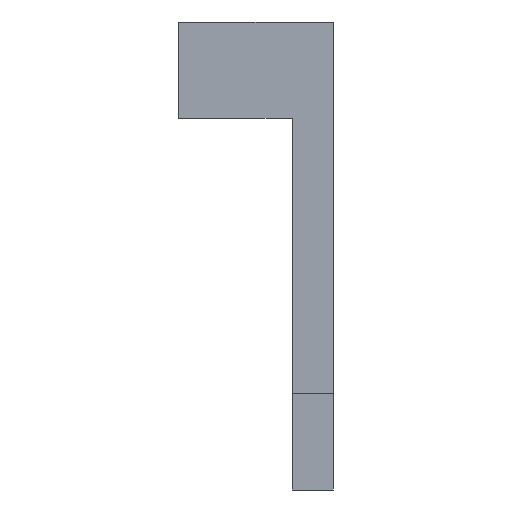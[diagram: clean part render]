
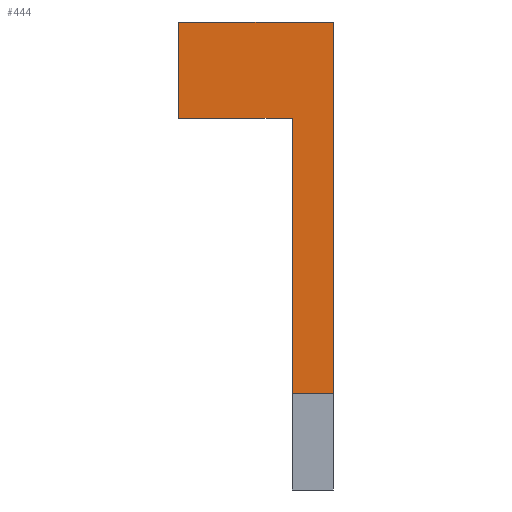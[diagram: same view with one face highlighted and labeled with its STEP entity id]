
A CAD part, front view. The second image highlights one B-rep face of the part: STEP entity #444.
In plain terms, the highlighted planar face has unit normal (0, -1, 0).
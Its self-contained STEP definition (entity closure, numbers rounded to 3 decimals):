
#24 = VERTEX_POINT('',#25);
#25 = CARTESIAN_POINT('',(56.5,-7.,-117.));
#32 = PLANE('',#33);
#33 = AXIS2_PLACEMENT_3D('',#34,#35,#36);
#34 = CARTESIAN_POINT('',(56.5,-27.,-131.));
#35 = DIRECTION('',(1.,0.,0.));
#36 = DIRECTION('',(0.,0.,1.));
#44 = PLANE('',#45);
#45 = AXIS2_PLACEMENT_3D('',#46,#47,#48);
#46 = CARTESIAN_POINT('',(56.5,-27.,-117.));
#47 = DIRECTION('',(0.,0.,1.));
#48 = DIRECTION('',(1.,0.,0.));
#197 = VERTEX_POINT('',#198);
#198 = CARTESIAN_POINT('',(56.5,-7.,-77.));
#212 = PLANE('',#213);
#213 = AXIS2_PLACEMENT_3D('',#214,#215,#216);
#214 = CARTESIAN_POINT('',(40.,-7.,-77.));
#215 = DIRECTION('',(0.,0.,1.));
#216 = DIRECTION('',(1.,0.,0.));
#224 = EDGE_CURVE('',#24,#197,#225,.T.);
#225 = SURFACE_CURVE('',#226,(#230,#237),.PCURVE_S1.);
#226 = LINE('',#227,#228);
#227 = CARTESIAN_POINT('',(56.5,-7.,-117.));
#228 = VECTOR('',#229,1.);
#229 = DIRECTION('',(0.,0.,1.));
#230 = PCURVE('',#32,#231);
#231 = DEFINITIONAL_REPRESENTATION('',(#232),#236);
#232 = LINE('',#233,#234);
#233 = CARTESIAN_POINT('',(14.,-20.));
#234 = VECTOR('',#235,1.);
#235 = DIRECTION('',(1.,0.));
#236 = ( GEOMETRIC_REPRESENTATION_CONTEXT(2) 
PARAMETRIC_REPRESENTATION_CONTEXT() REPRESENTATION_CONTEXT('2D SPACE',''
  ) );
#237 = PCURVE('',#238,#243);
#238 = PLANE('',#239);
#239 = AXIS2_PLACEMENT_3D('',#240,#241,#242);
#240 = CARTESIAN_POINT('',(56.5,-7.,-117.));
#241 = DIRECTION('',(0.,1.,0.));
#242 = DIRECTION('',(0.,0.,1.));
#243 = DEFINITIONAL_REPRESENTATION('',(#244),#248);
#244 = LINE('',#245,#246);
#245 = CARTESIAN_POINT('',(0.,0.));
#246 = VECTOR('',#247,1.);
#247 = DIRECTION('',(1.,0.));
#248 = ( GEOMETRIC_REPRESENTATION_CONTEXT(2) 
PARAMETRIC_REPRESENTATION_CONTEXT() REPRESENTATION_CONTEXT('2D SPACE',''
  ) );
#348 = VERTEX_POINT('',#349);
#349 = CARTESIAN_POINT('',(62.5,-7.,-117.));
#363 = PLANE('',#364);
#364 = AXIS2_PLACEMENT_3D('',#365,#366,#367);
#365 = CARTESIAN_POINT('',(62.5,-27.,-131.));
#366 = DIRECTION('',(1.,0.,0.));
#367 = DIRECTION('',(0.,0.,1.));
#375 = EDGE_CURVE('',#24,#348,#376,.T.);
#376 = SURFACE_CURVE('',#377,(#381,#388),.PCURVE_S1.);
#377 = LINE('',#378,#379);
#378 = CARTESIAN_POINT('',(56.5,-7.,-117.));
#379 = VECTOR('',#380,1.);
#380 = DIRECTION('',(1.,0.,0.));
#381 = PCURVE('',#44,#382);
#382 = DEFINITIONAL_REPRESENTATION('',(#383),#387);
#383 = LINE('',#384,#385);
#384 = CARTESIAN_POINT('',(0.,20.));
#385 = VECTOR('',#386,1.);
#386 = DIRECTION('',(1.,0.));
#387 = ( GEOMETRIC_REPRESENTATION_CONTEXT(2) 
PARAMETRIC_REPRESENTATION_CONTEXT() REPRESENTATION_CONTEXT('2D SPACE',''
  ) );
#388 = PCURVE('',#238,#389);
#389 = DEFINITIONAL_REPRESENTATION('',(#390),#394);
#390 = LINE('',#391,#392);
#391 = CARTESIAN_POINT('',(0.,0.));
#392 = VECTOR('',#393,1.);
#393 = DIRECTION('',(0.,1.));
#394 = ( GEOMETRIC_REPRESENTATION_CONTEXT(2) 
PARAMETRIC_REPRESENTATION_CONTEXT() REPRESENTATION_CONTEXT('2D SPACE',''
  ) );
#444 = ADVANCED_FACE('',(#445),#238,.F.);
#445 = FACE_BOUND('',#446,.F.);
#446 = EDGE_LOOP('',(#447,#448,#449,#472,#500,#528));
#447 = ORIENTED_EDGE('',*,*,#375,.F.);
#448 = ORIENTED_EDGE('',*,*,#224,.T.);
#449 = ORIENTED_EDGE('',*,*,#450,.F.);
#450 = EDGE_CURVE('',#451,#197,#453,.T.);
#451 = VERTEX_POINT('',#452);
#452 = CARTESIAN_POINT('',(40.,-7.,-77.));
#453 = SURFACE_CURVE('',#454,(#458,#465),.PCURVE_S1.);
#454 = LINE('',#455,#456);
#455 = CARTESIAN_POINT('',(40.,-7.,-77.));
#456 = VECTOR('',#457,1.);
#457 = DIRECTION('',(1.,0.,0.));
#458 = PCURVE('',#238,#459);
#459 = DEFINITIONAL_REPRESENTATION('',(#460),#464);
#460 = LINE('',#461,#462);
#461 = CARTESIAN_POINT('',(40.,-16.5));
#462 = VECTOR('',#463,1.);
#463 = DIRECTION('',(0.,1.));
#464 = ( GEOMETRIC_REPRESENTATION_CONTEXT(2) 
PARAMETRIC_REPRESENTATION_CONTEXT() REPRESENTATION_CONTEXT('2D SPACE',''
  ) );
#465 = PCURVE('',#212,#466);
#466 = DEFINITIONAL_REPRESENTATION('',(#467),#471);
#467 = LINE('',#468,#469);
#468 = CARTESIAN_POINT('',(0.,0.));
#469 = VECTOR('',#470,1.);
#470 = DIRECTION('',(1.,0.));
#471 = ( GEOMETRIC_REPRESENTATION_CONTEXT(2) 
PARAMETRIC_REPRESENTATION_CONTEXT() REPRESENTATION_CONTEXT('2D SPACE',''
  ) );
#472 = ORIENTED_EDGE('',*,*,#473,.T.);
#473 = EDGE_CURVE('',#451,#474,#476,.T.);
#474 = VERTEX_POINT('',#475);
#475 = CARTESIAN_POINT('',(40.,-7.,-63.));
#476 = SURFACE_CURVE('',#477,(#481,#488),.PCURVE_S1.);
#477 = LINE('',#478,#479);
#478 = CARTESIAN_POINT('',(40.,-7.,-77.));
#479 = VECTOR('',#480,1.);
#480 = DIRECTION('',(0.,0.,1.));
#481 = PCURVE('',#238,#482);
#482 = DEFINITIONAL_REPRESENTATION('',(#483),#487);
#483 = LINE('',#484,#485);
#484 = CARTESIAN_POINT('',(40.,-16.5));
#485 = VECTOR('',#486,1.);
#486 = DIRECTION('',(1.,0.));
#487 = ( GEOMETRIC_REPRESENTATION_CONTEXT(2) 
PARAMETRIC_REPRESENTATION_CONTEXT() REPRESENTATION_CONTEXT('2D SPACE',''
  ) );
#488 = PCURVE('',#489,#494);
#489 = PLANE('',#490);
#490 = AXIS2_PLACEMENT_3D('',#491,#492,#493);
#491 = CARTESIAN_POINT('',(40.,-7.,-77.));
#492 = DIRECTION('',(1.,0.,0.));
#493 = DIRECTION('',(0.,0.,1.));
#494 = DEFINITIONAL_REPRESENTATION('',(#495),#499);
#495 = LINE('',#496,#497);
#496 = CARTESIAN_POINT('',(0.,0.));
#497 = VECTOR('',#498,1.);
#498 = DIRECTION('',(1.,0.));
#499 = ( GEOMETRIC_REPRESENTATION_CONTEXT(2) 
PARAMETRIC_REPRESENTATION_CONTEXT() REPRESENTATION_CONTEXT('2D SPACE',''
  ) );
#500 = ORIENTED_EDGE('',*,*,#501,.F.);
#501 = EDGE_CURVE('',#502,#474,#504,.T.);
#502 = VERTEX_POINT('',#503);
#503 = CARTESIAN_POINT('',(62.5,-7.,-63.));
#504 = SURFACE_CURVE('',#505,(#509,#516),.PCURVE_S1.);
#505 = LINE('',#506,#507);
#506 = CARTESIAN_POINT('',(62.5,-7.,-63.));
#507 = VECTOR('',#508,1.);
#508 = DIRECTION('',(-1.,0.,0.));
#509 = PCURVE('',#238,#510);
#510 = DEFINITIONAL_REPRESENTATION('',(#511),#515);
#511 = LINE('',#512,#513);
#512 = CARTESIAN_POINT('',(54.,6.));
#513 = VECTOR('',#514,1.);
#514 = DIRECTION('',(0.,-1.));
#515 = ( GEOMETRIC_REPRESENTATION_CONTEXT(2) 
PARAMETRIC_REPRESENTATION_CONTEXT() REPRESENTATION_CONTEXT('2D SPACE',''
  ) );
#516 = PCURVE('',#517,#522);
#517 = PLANE('',#518);
#518 = AXIS2_PLACEMENT_3D('',#519,#520,#521);
#519 = CARTESIAN_POINT('',(56.5,-7.,-63.));
#520 = DIRECTION('',(0.,0.,1.));
#521 = DIRECTION('',(1.,0.,0.));
#522 = DEFINITIONAL_REPRESENTATION('',(#523),#527);
#523 = LINE('',#524,#525);
#524 = CARTESIAN_POINT('',(6.,0.));
#525 = VECTOR('',#526,1.);
#526 = DIRECTION('',(-1.,0.));
#527 = ( GEOMETRIC_REPRESENTATION_CONTEXT(2) 
PARAMETRIC_REPRESENTATION_CONTEXT() REPRESENTATION_CONTEXT('2D SPACE',''
  ) );
#528 = ORIENTED_EDGE('',*,*,#529,.F.);
#529 = EDGE_CURVE('',#348,#502,#530,.T.);
#530 = SURFACE_CURVE('',#531,(#535,#542),.PCURVE_S1.);
#531 = LINE('',#532,#533);
#532 = CARTESIAN_POINT('',(62.5,-7.,-117.));
#533 = VECTOR('',#534,1.);
#534 = DIRECTION('',(0.,0.,1.));
#535 = PCURVE('',#238,#536);
#536 = DEFINITIONAL_REPRESENTATION('',(#537),#541);
#537 = LINE('',#538,#539);
#538 = CARTESIAN_POINT('',(0.,6.));
#539 = VECTOR('',#540,1.);
#540 = DIRECTION('',(1.,0.));
#541 = ( GEOMETRIC_REPRESENTATION_CONTEXT(2) 
PARAMETRIC_REPRESENTATION_CONTEXT() REPRESENTATION_CONTEXT('2D SPACE',''
  ) );
#542 = PCURVE('',#363,#543);
#543 = DEFINITIONAL_REPRESENTATION('',(#544),#548);
#544 = LINE('',#545,#546);
#545 = CARTESIAN_POINT('',(14.,-20.));
#546 = VECTOR('',#547,1.);
#547 = DIRECTION('',(1.,0.));
#548 = ( GEOMETRIC_REPRESENTATION_CONTEXT(2) 
PARAMETRIC_REPRESENTATION_CONTEXT() REPRESENTATION_CONTEXT('2D SPACE',''
  ) );
